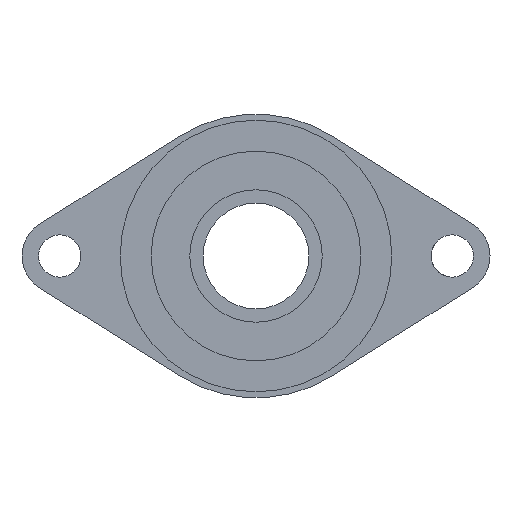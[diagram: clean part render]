
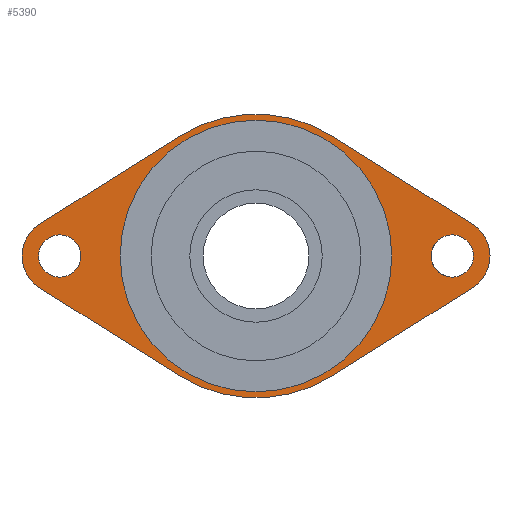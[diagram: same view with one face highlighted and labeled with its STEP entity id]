
A CAD part, left-side view. The second image highlights one B-rep face of the part: STEP entity #5390.
In plain terms, the highlighted planar face has unit normal (-1, 0, 0).
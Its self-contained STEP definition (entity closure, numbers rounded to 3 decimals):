
#460=CARTESIAN_POINT('',(-17.,45.,0.));
#470=VERTEX_POINT('',#460);
#550=CARTESIAN_POINT('',(-17.,-45.,0.));
#560=VERTEX_POINT('VERTEX10319',#550);
#590=CARTESIAN_POINT('',(-17.,0.,0.));
#600=DIRECTION('',(-1.,0.,0.));
#610=DIRECTION('',(0.,1.,0.));
#620=AXIS2_PLACEMENT_3D('',#590,#600,#610);
#630=CIRCLE('',#620,45.);
#640=EDGE_CURVE('EDGE15556',#470,#560,#630,.T.);
#1450=CARTESIAN_POINT('',(-17.,24.946,39.833));
#1460=VERTEX_POINT('',#1450);
#1490=CARTESIAN_POINT('',(-17.,0.,55.456));
#1500=DIRECTION('',(0.,-0.848,0.531));
#1510=VECTOR('',#1500,1.);
#1520=LINE('',#1490,#1510);
#1530=CARTESIAN_POINT('',(-17.,71.635,10.594));
#1540=VERTEX_POINT('',#1530);
#1550=EDGE_CURVE('',#1540,#1460,#1520,.T.);
#2330=CARTESIAN_POINT('',(-17.,-24.946,39.833));
#2340=VERTEX_POINT('VERTEX10302',#2330);
#2370=CARTESIAN_POINT('',(-17.,0.,0.));
#2380=DIRECTION('',(-1.,0.,0.));
#2390=DIRECTION('',(0.,0.531,0.848));
#2400=AXIS2_PLACEMENT_3D('',#2370,#2380,#2390);
#2410=CIRCLE('',#2400,47.);
#2420=EDGE_CURVE('EDGE15523',#2340,#1460,#2410,.T.);
#2580=CARTESIAN_POINT('',(-17.,-71.635,10.594));
#2590=VERTEX_POINT('VERTEX10303',#2580);
#2620=CARTESIAN_POINT('',(-17.,-12.376,47.705));
#2630=DIRECTION('',(0.,0.848,0.531));
#2640=VECTOR('',#2630,1.);
#2650=LINE('',#2620,#2640);
#2660=EDGE_CURVE('EDGE15525',#2590,#2340,#2650,.T.);
#2820=CARTESIAN_POINT('',(-17.,-71.635,-10.594));
#2830=VERTEX_POINT('VERTEX10304',#2820);
#2860=CARTESIAN_POINT('',(-17.,-65.,0.));
#2870=DIRECTION('',(-1.,0.,0.));
#2880=DIRECTION('',(0.,-0.531,0.848));
#2890=AXIS2_PLACEMENT_3D('',#2860,#2870,#2880);
#2900=CIRCLE('',#2890,12.5);
#2910=EDGE_CURVE('EDGE15527',#2830,#2590,#2900,.T.);
#3070=CARTESIAN_POINT('',(-17.,-24.946,-39.833));
#3080=VERTEX_POINT('VERTEX10305',#3070);
#3110=CARTESIAN_POINT('',(-17.,10.968,-62.325));
#3120=DIRECTION('',(0.,-0.848,0.531));
#3130=VECTOR('',#3120,1.);
#3140=LINE('',#3110,#3130);
#3150=EDGE_CURVE('EDGE15529',#3080,#2830,#3140,.T.);
#3390=CARTESIAN_POINT('',(-17.,24.946,-39.833));
#3400=VERTEX_POINT('VERTEX10306',#3390);
#3430=CARTESIAN_POINT('',(-17.,0.,0.));
#3440=DIRECTION('',(-1.,0.,0.));
#3450=DIRECTION('',(0.,-0.531,-0.848));
#3460=AXIS2_PLACEMENT_3D('',#3430,#3440,#3450);
#3470=CIRCLE('',#3460,47.);
#3480=EDGE_CURVE('EDGE15531',#3400,#3080,#3470,.T.);
#3710=CARTESIAN_POINT('',(-17.,71.635,-10.594));
#3720=VERTEX_POINT('VERTEX10307',#3710);
#3750=CARTESIAN_POINT('',(-17.,84.205,-2.722));
#3760=DIRECTION('',(0.,-0.848,-0.531));
#3770=VECTOR('',#3760,1.);
#3780=LINE('',#3750,#3770);
#3790=EDGE_CURVE('EDGE15533',#3720,#3400,#3780,.T.);
#3980=CARTESIAN_POINT('',(-17.,65.,0.));
#3990=DIRECTION('',(-1.,0.,0.));
#4000=DIRECTION('',(0.,0.531,-0.848));
#4010=AXIS2_PLACEMENT_3D('',#3980,#3990,#4000);
#4020=CIRCLE('',#4010,12.5);
#4030=EDGE_CURVE('EDGE15535',#1540,#3720,#4020,.T.);
#4190=CARTESIAN_POINT('',(-17.,65.,7.));
#4200=VERTEX_POINT('VERTEX10309',#4190);
#4230=CARTESIAN_POINT('',(-17.,65.,0.));
#4240=DIRECTION('',(1.,0.,0.));
#4250=DIRECTION('',(0.,0.,-1.));
#4260=AXIS2_PLACEMENT_3D('',#4230,#4240,#4250);
#4270=CIRCLE('',#4260,7.);
#4280=CARTESIAN_POINT('',(-17.,65.,-7.));
#4290=VERTEX_POINT('',#4280);
#4300=EDGE_CURVE('',#4200,#4290,#4270,.T.);
#4850=CARTESIAN_POINT('',(-17.,-65.,7.));
#4860=VERTEX_POINT('VERTEX10311',#4850);
#4950=CARTESIAN_POINT('',(-17.,-65.,-7.));
#4960=VERTEX_POINT('',#4950);
#4990=CARTESIAN_POINT('',(-17.,-65.,0.));
#5000=DIRECTION('',(1.,0.,0.));
#5010=DIRECTION('',(0.,0.,-1.));
#5020=AXIS2_PLACEMENT_3D('',#4990,#5000,#5010);
#5030=CIRCLE('',#5020,7.);
#5040=EDGE_CURVE('EDGE15542',#4960,#4860,#5030,.T.);
#5090=CARTESIAN_POINT('',(-17.,100.,0.));
#5100=DIRECTION('',(-1.,0.,0.));
#5110=DIRECTION('',(0.,1.,0.));
#5120=AXIS2_PLACEMENT_3D('',#5090,#5100,#5110);
#5130=PLANE('',#5120);
#5140=ORIENTED_EDGE('',*,*,#1550,.F.);
#5150=ORIENTED_EDGE('',*,*,#2420,.T.);
#5160=ORIENTED_EDGE('',*,*,#2660,.T.);
#5170=ORIENTED_EDGE('',*,*,#2910,.T.);
#5180=ORIENTED_EDGE('',*,*,#3150,.T.);
#5190=ORIENTED_EDGE('',*,*,#3480,.T.);
#5200=ORIENTED_EDGE('',*,*,#3790,.T.);
#5210=ORIENTED_EDGE('',*,*,#4030,.T.);
#5220=EDGE_LOOP('',(#5210,#5200,#5190,#5180,#5170,#5160,#5150,#5140));
#5230=FACE_OUTER_BOUND('',#5220,.T.);
#5240=EDGE_CURVE('',#4860,#4960,#5030,.T.);
#5250=ORIENTED_EDGE('',*,*,#5240,.T.);
#5260=ORIENTED_EDGE('',*,*,#5040,.T.);
#5270=EDGE_LOOP('',(#5260,#5250));
#5280=FACE_BOUND('',#5270,.T.);
#5290=EDGE_CURVE('',#560,#470,#630,.T.);
#5300=ORIENTED_EDGE('',*,*,#5290,.F.);
#5310=ORIENTED_EDGE('',*,*,#640,.F.);
#5320=EDGE_LOOP('',(#5310,#5300));
#5330=FACE_BOUND('',#5320,.T.);
#5340=ORIENTED_EDGE('',*,*,#4300,.T.);
#5350=EDGE_CURVE('EDGE15538',#4290,#4200,#4270,.T.);
#5360=ORIENTED_EDGE('',*,*,#5350,.T.);
#5370=EDGE_LOOP('',(#5360,#5340));
#5380=FACE_BOUND('',#5370,.T.);
#5390=ADVANCED_FACE('',(#5230,#5280,#5330,#5380),#5130,.T.);
